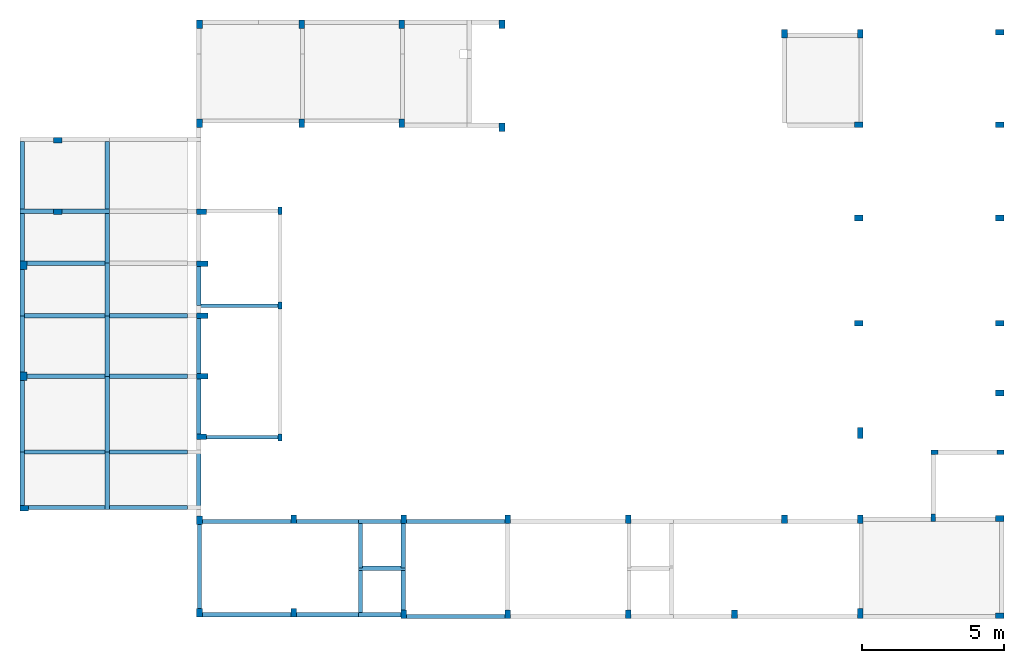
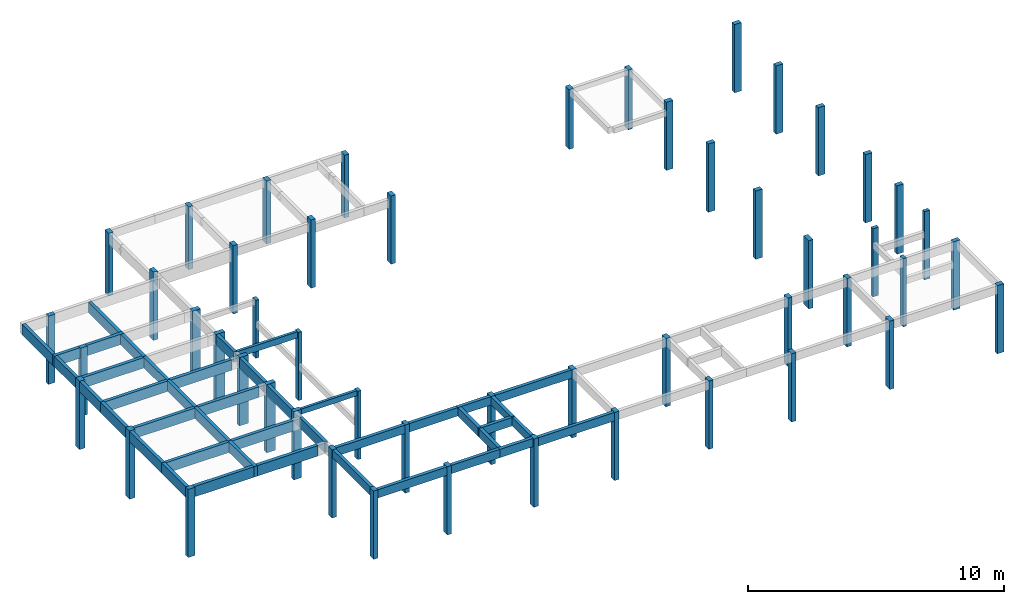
# One storey, part 1 of 6: 51 columns, 43 beams.
"""IFC4 building model written with IfcOpenShell, lengths in centimetres."""

from ifc_helpers import new_model, si_unit, derived_unit, frame, origin_with_axes, origin_2d_with_axis, place, context, project, spatial, rectangle, extrude, material, element, save


model = new_model("IFC4")

# Units and contexts
model_context = context("Model", 3, precision=1e-05, world=origin_with_axes(), identifier="Body")
ifc_project = project(units=[si_unit("LENGTHUNIT", "METRE", prefix="CENTI"), si_unit("VOLUMEUNIT", "CUBIC_METRE"), si_unit("AREAUNIT", "SQUARE_METRE"), si_unit("POWERUNIT", "WATT"), si_unit("LUMINOUSFLUXUNIT", "LUMEN"), si_unit("ELECTRICCURRENTUNIT", "AMPERE"), si_unit("PRESSUREUNIT", "PASCAL", prefix="KILO"), si_unit("MASSUNIT", "GRAM", prefix="KILO"), si_unit("PLANEANGLEUNIT", "RADIAN"), derived_unit("VOLUMETRICFLOWRATEUNIT", [(si_unit("LENGTHUNIT", "METRE"), 3), (si_unit("TIMEUNIT", "SECOND"), -1)])], contexts=[model_context])

# Site, building, storey
site_placement = place(None, origin_with_axes())
site = spatial("IfcSite", under=ifc_project, at=site_placement)
building_placement = place(site_placement, frame((0.0, 0.0, -295.0)))
building = spatial("IfcBuilding", under=site, at=building_placement)
placement_1 = place(building_placement, origin_with_axes())
placement_2 = place(placement_1, frame((0.0, 0.0, 101.0), z_axis=(0.0, 0.0, 1.0), x_axis=(1.0, 0.0, 0.0)))
placement_3 = place(placement_2, frame((0.0, 0.0, 204.0), z_axis=(0.0, 0.0, 1.0), x_axis=(1.0, 0.0, 0.0)))
placement_4 = place(placement_3, frame((0.0, 0.0, 292.0), z_axis=(0.0, 0.0, 1.0), x_axis=(1.0, 0.0, 0.0)))
placement_5 = place(placement_4, frame((0.0, 0.0, 302.0), z_axis=(0.0, 0.0, 1.0), x_axis=(1.0, 0.0, 0.0)))
storey_placement = place(placement_5, frame((0.0, 0.0, 326.0), z_axis=(0.0, 0.0, 1.0), x_axis=(1.0, 0.0, 0.0)))
storey = spatial("IfcBuildingStorey", under=building, at=storey_placement, Name="COB CX DAGUA", CompositionType="ELEMENT", Elevation=930.0)

# Columns
ifc_material = material(Name="Concreto")
column_1_placement = place(storey_placement, frame((4001.76, -5114.55, 0.0), z_axis=(0.0, 0.0, 1.0), x_axis=(1.0, 0.0, 0.0)))
element("IfcColumn", 1, at=column_1_placement, inside=storey, material=ifc_material, Name="P10", context=model_context, shape_type="SolidModel", body=[
    extrude(rectangle(XDim=20.0, YDim=30.0, at=origin_2d_with_axis()), frame((0.0, 0.0, 0.0), z_axis=(0.0, 0.0, 1.0), x_axis=(0.0, 1.0, 0.0)), (0.0, 0.0, -1.0), 326.0),
])
for number, where, z_axis, x_axis, name in (
    (2, (1183.9, -5434.69, 0.0), (0.0, 0.0, 1.0), (1.0, 0.0, 0.0), "P11"),
    (3, (1544.4, -5434.69, 0.0), (0.0, 0.0, 1.0), (1.0, 0.0, 0.0), "P12"),
    (4, (1895.85, -5434.69, 0.0), (0.0, 0.0, 1.0), (1.0, 0.0, 0.0), "P13"),
    (5, (2248.73, -5449.62, 0.0), (0.0, 0.0, 1.0), (1.0, 0.0, 0.0), "P14"),
):
    element("IfcColumn", number, at=place(storey_placement, frame(where, z_axis=z_axis, x_axis=x_axis)), inside=storey, material=ifc_material, Name=name, context=model_context, shape_type="SolidModel", body=[
        extrude(rectangle(XDim=20.0, YDim=30.0, at=origin_2d_with_axis()), origin_with_axes(), (0.0, 0.0, -1.0), 326.0),
    ])
for number, where, z_axis, x_axis, name in (
    (6, (3505.71, -5439.69, 0.0), (0.0, 0.0, 1.0), (1.0, 0.0, 0.0), "P18"),
    (7, (4001.74, -5439.69, 0.0), (0.0, 0.0, 1.0), (1.0, 0.0, 0.0), "P19"),
):
    element("IfcColumn", number, at=place(storey_placement, frame(where, z_axis=z_axis, x_axis=x_axis)), inside=storey, material=ifc_material, Name=name, context=model_context, shape_type="SolidModel", body=[
        extrude(rectangle(XDim=20.0, YDim=30.0, at=origin_2d_with_axis()), frame((0.0, 0.0, 0.0), z_axis=(0.0, 0.0, 1.0), x_axis=(0.0, -1.0, 0.0)), (0.0, 0.0, -1.0), 326.0),
    ])
column_2_placement = place(storey_placement, frame((1183.9, -5086.11, -26.0), z_axis=(0.0, 0.0, 1.0), x_axis=(1.0, 0.0, 0.0)))
element("IfcColumn", 8, at=column_2_placement, inside=storey, material=ifc_material, Name="P2", context=model_context, shape_type="SolidModel", body=[
    extrude(rectangle(XDim=20.0, YDim=30.0, at=origin_2d_with_axis()), origin_with_axes(), (0.0, 0.0, -1.0), 300.0),
])
for number, where, z_axis, x_axis, name in (
    (9, (683.93, -5494.16, 0.0), (0.0, 0.0, 1.0), (1.0, 0.0, 0.0), "P20"),
    (10, (683.93, -5746.84, 0.0), (0.0, 0.0, 1.0), (1.0, 0.0, 0.0), "P22"),
):
    element("IfcColumn", number, at=place(storey_placement, frame(where, z_axis=z_axis, x_axis=x_axis)), inside=storey, material=ifc_material, Name=name, context=model_context, shape_type="SolidModel", body=[
        extrude(rectangle(XDim=20.0, YDim=30.0, at=origin_2d_with_axis()), frame((0.0, 0.0, 0.0), z_axis=(0.0, 0.0, 1.0), x_axis=(0.0, 1.0, 0.0)), (0.0, 0.0, -1.0), 326.0),
    ])
column_3_placement = place(storey_placement, frame((1191.4, -5746.84, 0.0), z_axis=(0.0, 0.0, 1.0), x_axis=(1.0, 0.0, 0.0)))
element("IfcColumn", 11, at=column_3_placement, inside=storey, material=ifc_material, Name="P23", context=model_context, shape_type="SolidModel", body=[
    extrude(rectangle(XDim=20.0, YDim=35.0, at=origin_2d_with_axis()), frame((0.0, 0.0, 0.0), z_axis=(0.0, 0.0, 1.0), x_axis=(0.0, 1.0, 0.0)), (0.0, 0.0, -1.0), 326.0),
])
for number, where, z_axis, x_axis, name in (
    (12, (3505.73, -5768.55, 0.0), (0.0, 0.0, 1.0), (1.0, 0.0, 0.0), "P25"),
    (13, (4001.76, -5768.55, 0.0), (0.0, 0.0, 1.0), (1.0, 0.0, 0.0), "P26"),
):
    element("IfcColumn", number, at=place(storey_placement, frame(where, z_axis=z_axis, x_axis=x_axis)), inside=storey, material=ifc_material, Name=name, context=model_context, shape_type="SolidModel", body=[
        extrude(rectangle(XDim=20.0, YDim=30.0, at=origin_2d_with_axis()), frame((0.0, 0.0, 0.0), z_axis=(0.0, 0.0, 1.0), x_axis=(0.0, -1.0, 0.0)), (0.0, 0.0, -1.0), 326.0),
    ])
column_4_placement = place(storey_placement, frame((564.23, -5934.85, 0.0), z_axis=(0.0, 0.0, 1.0), x_axis=(1.0, 0.0, 0.0)))
element("IfcColumn", 14, at=column_4_placement, inside=storey, material=ifc_material, Name="P27", context=model_context, shape_type="SolidModel", body=[
    extrude(rectangle(XDim=25.0, YDim=30.0, at=origin_2d_with_axis()), origin_with_axes(), (0.0, 0.0, -1.0), 326.0),
])
column_5_placement = place(storey_placement, frame((1193.9, -5929.85, 0.0), z_axis=(0.0, 0.0, 1.0), x_axis=(1.0, 0.0, 0.0)))
element("IfcColumn", 15, at=column_5_placement, inside=storey, material=ifc_material, Name="P28", context=model_context, shape_type="SolidModel", body=[
    extrude(rectangle(XDim=20.0, YDim=40.0, at=origin_2d_with_axis()), frame((0.0, 0.0, 0.0), z_axis=(0.0, 0.0, 1.0), x_axis=(0.0, -1.0, 0.0)), (0.0, 0.0, -1.0), 326.0),
])
column_6_placement = place(storey_placement, frame((1193.9, -6112.7, 0.0), z_axis=(0.0, 0.0, 1.0), x_axis=(1.0, 0.0, 0.0)))
element("IfcColumn", 16, at=column_6_placement, inside=storey, material=ifc_material, Name="P29", context=model_context, shape_type="SolidModel", body=[
    extrude(rectangle(XDim=20.0, YDim=40.0, at=origin_2d_with_axis()), frame((0.0, 0.0, 0.0), z_axis=(0.0, 0.0, 1.0), x_axis=(0.0, 1.0, 0.0)), (0.0, 0.0, -1.0), 326.0),
])
column_7_placement = place(storey_placement, frame((1544.4, -5086.11, -26.0), z_axis=(0.0, 0.0, 1.0), x_axis=(1.0, 0.0, 0.0)))
element("IfcColumn", 17, at=column_7_placement, inside=storey, material=ifc_material, Name="P3", context=model_context, shape_type="SolidModel", body=[
    extrude(rectangle(XDim=20.0, YDim=30.0, at=origin_2d_with_axis()), origin_with_axes(), (0.0, 0.0, -1.0), 300.0),
])
for number, where, z_axis, x_axis, name in (
    (18, (3505.73, -6138.55, 0.0), (0.0, 0.0, 1.0), (1.0, 0.0, 0.0), "P30"),
    (19, (4001.76, -6138.55, 0.0), (0.0, 0.0, 1.0), (1.0, 0.0, 0.0), "P31"),
):
    element("IfcColumn", number, at=place(storey_placement, frame(where, z_axis=z_axis, x_axis=x_axis)), inside=storey, material=ifc_material, Name=name, context=model_context, shape_type="SolidModel", body=[
        extrude(rectangle(XDim=20.0, YDim=30.0, at=origin_2d_with_axis()), frame((0.0, 0.0, 0.0), z_axis=(0.0, 0.0, 1.0), x_axis=(0.0, -1.0, 0.0)), (0.0, 0.0, -1.0), 326.0),
    ])
column_8_placement = place(storey_placement, frame((564.23, -6325.62, 0.0), z_axis=(0.0, 0.0, 1.0), x_axis=(1.0, 0.0, 0.0)))
element("IfcColumn", 20, at=column_8_placement, inside=storey, material=ifc_material, Name="P32", context=model_context, shape_type="SolidModel", body=[
    extrude(rectangle(XDim=25.0, YDim=30.0, at=origin_2d_with_axis()), origin_with_axes(), (0.0, 0.0, -1.0), 326.0),
])
column_9_placement = place(storey_placement, frame((1193.9, -6325.62, 0.0), z_axis=(0.0, 0.0, 1.0), x_axis=(1.0, 0.0, 0.0)))
element("IfcColumn", 21, at=column_9_placement, inside=storey, material=ifc_material, Name="P33", context=model_context, shape_type="SolidModel", body=[
    extrude(rectangle(XDim=20.0, YDim=40.0, at=origin_2d_with_axis()), frame((0.0, 0.0, 0.0), z_axis=(0.0, 0.0, 1.0), x_axis=(0.0, 1.0, 0.0)), (0.0, 0.0, -1.0), 326.0),
])
column_10_placement = place(storey_placement, frame((4001.76, -6384.65, 0.0), z_axis=(0.0, 0.0, 1.0), x_axis=(1.0, 0.0, 0.0)))
element("IfcColumn", 22, at=column_10_placement, inside=storey, material=ifc_material, Name="P34", context=model_context, shape_type="SolidModel", body=[
    extrude(rectangle(XDim=20.0, YDim=30.0, at=origin_2d_with_axis()), frame((0.0, 0.0, 0.0), z_axis=(0.0, 0.0, 1.0), x_axis=(0.0, -1.0, 0.0)), (0.0, 0.0, -1.0), 326.0),
])
column_11_placement = place(storey_placement, frame((1191.4, -6538.55, 0.0), z_axis=(0.0, 0.0, 1.0), x_axis=(1.0, 0.0, 0.0)))
element("IfcColumn", 23, at=column_11_placement, inside=storey, material=ifc_material, Name="P35", context=model_context, shape_type="SolidModel", body=[
    extrude(rectangle(XDim=20.0, YDim=35.0, at=origin_2d_with_axis()), frame((0.0, 0.0, 0.0), z_axis=(0.0, 0.0, 1.0), x_axis=(0.0, 1.0, 0.0)), (0.0, 0.0, -1.0), 326.0),
])
column_12_placement = place(storey_placement, frame((3510.73, -6525.55, 0.0), z_axis=(0.0, 0.0, 1.0), x_axis=(1.0, 0.0, 0.0)))
element("IfcColumn", 24, at=column_12_placement, inside=storey, material=ifc_material, Name="P37", context=model_context, shape_type="SolidModel", body=[
    extrude(rectangle(XDim=20.0, YDim=40.0, at=origin_2d_with_axis()), origin_with_axes(), (0.0, 0.0, -1.0), 326.0),
])
for number, where, z_axis, x_axis, name in (
    (25, (3772.23, -6592.81, 0.0), (0.0, 0.0, 1.0), (1.0, 0.0, 0.0), "P38"),
    (26, (4004.23, -6592.81, 0.0), (0.0, 0.0, 1.0), (1.0, 0.0, 0.0), "P39"),
):
    element("IfcColumn", number, at=place(storey_placement, frame(where, z_axis=z_axis, x_axis=x_axis)), inside=storey, material=ifc_material, Name=name, context=model_context, shape_type="SolidModel", body=[
        extrude(rectangle(XDim=15.0, YDim=25.0, at=origin_2d_with_axis()), frame((0.0, 0.0, 0.0), z_axis=(0.0, 0.0, 1.0), x_axis=(0.0, 1.0, 0.0)), (0.0, 0.0, -1.0), 326.0),
    ])
column_13_placement = place(storey_placement, frame((1895.85, -5086.11, -26.0), z_axis=(0.0, 0.0, 1.0), x_axis=(1.0, 0.0, 0.0)))
element("IfcColumn", 27, at=column_13_placement, inside=storey, material=ifc_material, Name="P4", context=model_context, shape_type="SolidModel", body=[
    extrude(rectangle(XDim=20.0, YDim=30.0, at=origin_2d_with_axis()), origin_with_axes(), (0.0, 0.0, -1.0), 300.0),
])
column_14_placement = place(storey_placement, frame((566.73, -6790.04, 0.0), z_axis=(0.0, 0.0, 1.0), x_axis=(1.0, 0.0, 0.0)))
element("IfcColumn", 28, at=column_14_placement, inside=storey, material=ifc_material, Name="P40", context=model_context, shape_type="SolidModel", body=[
    extrude(rectangle(XDim=20.0, YDim=30.0, at=origin_2d_with_axis()), frame((0.0, 0.0, 0.0), z_axis=(0.0, 0.0, 1.0), x_axis=(0.0, 1.0, 0.0)), (0.0, 0.0, -1.0), 326.0),
])
for number, where, z_axis, x_axis, name in (
    (29, (1183.9, -6833.35, 0.0), (0.0, 0.0, 1.0), (1.0, 0.0, 0.0), "P41"),
    (30, (1515.96, -6829.2, 0.0), (0.0, 0.0, 1.0), (1.0, 0.0, 0.0), "P42"),
    (31, (1903.6, -6829.2, 0.0), (0.0, 0.0, 1.0), (1.0, 0.0, 0.0), "P43"),
    (32, (2268.73, -6829.2, 0.0), (0.0, 0.0, 1.0), (1.0, 0.0, 0.0), "P44"),
    (33, (2693.6, -6829.2, 0.0), (0.0, 0.0, 1.0), (1.0, 0.0, 0.0), "P45"),
    (34, (3243.73, -6829.2, 0.0), (0.0, 0.0, 1.0), (1.0, 0.0, 0.0), "P46"),
    (35, (3510.73, -6829.2, 0.0), (0.0, 0.0, 1.0), (1.0, 0.0, 0.0), "P47"),
):
    element("IfcColumn", number, at=place(storey_placement, frame(where, z_axis=z_axis, x_axis=x_axis)), inside=storey, material=ifc_material, Name=name, context=model_context, shape_type="SolidModel", body=[
        extrude(rectangle(XDim=20.0, YDim=30.0, at=origin_2d_with_axis()), origin_with_axes(), (0.0, 0.0, -1.0), 326.0),
    ])
column_15_placement = place(storey_placement, frame((3767.23, -6823.79, 0.0), z_axis=(0.0, 0.0, 1.0), x_axis=(1.0, 0.0, 0.0)))
element("IfcColumn", 36, at=column_15_placement, inside=storey, material=ifc_material, Name="P48", context=model_context, shape_type="SolidModel", body=[
    extrude(rectangle(XDim=15.0, YDim=25.0, at=origin_2d_with_axis()), origin_with_axes(), (0.0, 0.0, -1.0), 326.0),
])
column_16_placement = place(storey_placement, frame((4001.75, -6826.29, 0.0), z_axis=(0.0, 0.0, 1.0), x_axis=(1.0, 0.0, 0.0)))
element("IfcColumn", 37, at=column_16_placement, inside=storey, material=ifc_material, Name="P49", context=model_context, shape_type="SolidModel", body=[
    extrude(rectangle(XDim=20.0, YDim=30.0, at=origin_2d_with_axis()), frame((0.0, 0.0, 0.0), z_axis=(0.0, 0.0, 1.0), x_axis=(0.0, 1.0, 0.0)), (0.0, 0.0, -1.0), 326.0),
])
column_17_placement = place(storey_placement, frame((2248.73, -5086.25, -26.0), z_axis=(0.0, 0.0, 1.0), x_axis=(1.0, 0.0, 0.0)))
element("IfcColumn", 38, at=column_17_placement, inside=storey, material=ifc_material, Name="P5", context=model_context, shape_type="SolidModel", body=[
    extrude(rectangle(XDim=20.0, YDim=30.0, at=origin_2d_with_axis()), origin_with_axes(), (0.0, 0.0, -1.0), 300.0),
])
column_18_placement = place(storey_placement, frame((1183.9, -7157.93, 0.0), z_axis=(0.0, 0.0, 1.0), x_axis=(1.0, 0.0, 0.0)))
element("IfcColumn", 39, at=column_18_placement, inside=storey, material=ifc_material, Name="P52", context=model_context, shape_type="SolidModel", body=[
    extrude(rectangle(XDim=20.0, YDim=30.0, at=origin_2d_with_axis()), frame((0.0, 0.0, 0.0), z_axis=(0.0, 0.0, 1.0), x_axis=(-1.0, 0.0, 0.0)), (0.0, 0.0, -1.0), 326.0),
])
for number, where, z_axis, x_axis, name in (
    (40, (1515.96, -7157.93, 0.0), (0.0, 0.0, 1.0), (1.0, 0.0, 0.0), "P53"),
    (41, (1903.6, -7164.31, 0.0), (0.0, 0.0, 1.0), (1.0, 0.0, 0.0), "P54"),
    (42, (2268.73, -7164.31, 0.0), (0.0, 0.0, 1.0), (1.0, 0.0, 0.0), "P55"),
    (43, (2693.6, -7164.31, 0.0), (0.0, 0.0, 1.0), (1.0, 0.0, 0.0), "P56"),
    (44, (3067.54, -7164.31, 0.0), (0.0, 0.0, 1.0), (1.0, 0.0, 0.0), "P57"),
):
    element("IfcColumn", number, at=place(storey_placement, frame(where, z_axis=z_axis, x_axis=x_axis)), inside=storey, material=ifc_material, Name=name, context=model_context, shape_type="SolidModel", body=[
        extrude(rectangle(XDim=20.0, YDim=30.0, at=origin_2d_with_axis()), origin_with_axes(), (0.0, 0.0, -1.0), 326.0),
    ])
column_19_placement = place(storey_placement, frame((3510.73, -7161.81, 0.0), z_axis=(0.0, 0.0, 1.0), x_axis=(1.0, 0.0, 0.0)))
element("IfcColumn", 45, at=column_19_placement, inside=storey, material=ifc_material, Name="P58", context=model_context, shape_type="SolidModel", body=[
    extrude(rectangle(XDim=20.0, YDim=35.0, at=origin_2d_with_axis()), frame((0.0, 0.0, 0.0), z_axis=(0.0, 0.0, 1.0), x_axis=(-1.0, 0.0, 0.0)), (0.0, 0.0, -1.0), 326.0),
])
column_20_placement = place(storey_placement, frame((4001.76, -7169.31, 0.0), z_axis=(0.0, 0.0, 1.0), x_axis=(1.0, 0.0, 0.0)))
element("IfcColumn", 46, at=column_20_placement, inside=storey, material=ifc_material, Name="P59", context=model_context, shape_type="SolidModel", body=[
    extrude(rectangle(XDim=20.0, YDim=30.0, at=origin_2d_with_axis()), frame((0.0, 0.0, 0.0), z_axis=(0.0, 0.0, 1.0), x_axis=(0.0, -1.0, 0.0)), (0.0, 0.0, -1.0), 326.0),
])
column_21_placement = place(storey_placement, frame((1467.4, -5742.84, -50.0), z_axis=(0.0, 0.0, 1.0), x_axis=(1.0, 0.0, 0.0)))
element("IfcColumn", 47, at=column_21_placement, inside=storey, material=ifc_material, Name="P60", context=model_context, shape_type="SolidModel", body=[
    extrude(rectangle(XDim=15.0, YDim=25.0, at=origin_2d_with_axis()), origin_with_axes(), (0.0, 0.0, -1.0), 276.0),
])
for number, where, z_axis, x_axis, name in (
    (48, (1467.4, -6076.7, 0.0), (0.0, 0.0, 1.0), (1.0, 0.0, 0.0), "P61"),
    (49, (1467.4, -6541.05, 0.0), (0.0, 0.0, 1.0), (1.0, 0.0, 0.0), "P62"),
):
    element("IfcColumn", number, at=place(storey_placement, frame(where, z_axis=z_axis, x_axis=x_axis)), inside=storey, material=ifc_material, Name=name, context=model_context, shape_type="SolidModel", body=[
        extrude(rectangle(XDim=15.0, YDim=25.0, at=origin_2d_with_axis()), origin_with_axes(), (0.0, 0.0, -1.0), 326.0),
    ])
column_22_placement = place(storey_placement, frame((3243.73, -5119.55, -41.0), z_axis=(0.0, 0.0, 1.0), x_axis=(1.0, 0.0, 0.0)))
element("IfcColumn", 50, at=column_22_placement, inside=storey, material=ifc_material, Name="P8", context=model_context, shape_type="SolidModel", body=[
    extrude(rectangle(XDim=20.0, YDim=30.0, at=origin_2d_with_axis()), origin_with_axes(), (0.0, 0.0, -1.0), 285.0),
])
column_23_placement = place(storey_placement, frame((3510.73, -5119.55, -41.0), z_axis=(0.0, 0.0, 1.0), x_axis=(1.0, 0.0, 0.0)))
element("IfcColumn", 51, at=column_23_placement, inside=storey, material=ifc_material, Name="P9", context=model_context, shape_type="SolidModel", body=[
    extrude(rectangle(XDim=20.0, YDim=30.0, at=origin_2d_with_axis()), frame((0.0, 0.0, 0.0), z_axis=(0.0, 0.0, 1.0), x_axis=(-1.0, 0.0, 0.0)), (0.0, 0.0, -1.0), 285.0),
])

# Beams
beam_1_placement = place(storey_placement, frame((610.33, -5744.34, 0.0), z_axis=(0.0, 0.0, 1.0), x_axis=(1.0, 0.0, 0.0)))
element("IfcBeam", 52, at=beam_1_placement, inside=storey, material=ifc_material, Name="V308", context=model_context, shape_type="SolidModel", body=[
    extrude(rectangle(XDim=15.0, YDim=50.0, at=origin_2d_with_axis()), frame((-58.6, 0.0, -25.0), z_axis=(1.0, 0.0, 0.0), x_axis=(0.0, -1.0, 0.0)), (0.0, 0.0, 1.0), 117.2),
])
beam_2_placement = place(storey_placement, frame((782.665, -5744.34, 0.0), z_axis=(0.0, 0.0, 1.0), x_axis=(1.0, 0.0, 0.0)))
element("IfcBeam", 53, at=beam_2_placement, inside=storey, material=ifc_material, Name="V308", context=model_context, shape_type="SolidModel", body=[
    extrude(rectangle(XDim=15.0, YDim=50.0, at=origin_2d_with_axis()), frame((-83.735, 0.0, -25.0), z_axis=(1.0, 0.0, 0.0), x_axis=(0.0, -1.0, 0.0)), (0.0, 0.0, 1.0), 167.47),
])
beam_3_placement = place(storey_placement, frame((717.815, -5927.35, 0.0), z_axis=(0.0, 0.0, 1.0), x_axis=(1.0, 0.0, 0.0)))
element("IfcBeam", 54, at=beam_3_placement, inside=storey, material=ifc_material, Name="V310", context=model_context, shape_type="SolidModel", body=[
    extrude(rectangle(XDim=15.0, YDim=50.0, at=origin_2d_with_axis()), frame((-141.085, 0.0, -25.0), z_axis=(1.0, 0.0, 0.0), x_axis=(0.0, -1.0, 0.0)), (0.0, 0.0, 1.0), 282.17),
])
beam_4_placement = place(storey_placement, frame((999.9, -6112.7, 0.0), z_axis=(0.0, 0.0, 1.0), x_axis=(1.0, 0.0, 0.0)))
element("IfcBeam", 55, at=beam_4_placement, inside=storey, material=ifc_material, Name="V311", context=model_context, shape_type="SolidModel", body=[
    extrude(rectangle(XDim=15.0, YDim=50.0, at=origin_2d_with_axis()), frame((-141.0, 0.0, -25.0), z_axis=(1.0, 0.0, 0.0), x_axis=(0.0, -1.0, 0.0)), (0.0, 0.0, 1.0), 282.0),
])
beam_5_placement = place(storey_placement, frame((709.065, -6112.7, 0.0), z_axis=(0.0, 0.0, 1.0), x_axis=(1.0, 0.0, 0.0)))
element("IfcBeam", 56, at=beam_5_placement, inside=storey, material=ifc_material, Name="V311", context=model_context, shape_type="SolidModel", body=[
    extrude(rectangle(XDim=15.0, YDim=50.0, at=origin_2d_with_axis()), frame((-149.835, 0.0, -25.0), z_axis=(1.0, 0.0, 0.0), x_axis=(0.0, -1.0, 0.0)), (0.0, 0.0, 1.0), 299.67),
])
beam_6_placement = place(storey_placement, frame((1320.65, -6076.7, 0.0), z_axis=(0.0, 0.0, 1.0), x_axis=(1.0, 0.0, 0.0)))
element("IfcBeam", 57, at=beam_6_placement, inside=storey, material=ifc_material, Name="V312", context=model_context, shape_type="SolidModel", body=[
    extrude(rectangle(XDim=12.0, YDim=30.0, at=origin_2d_with_axis()), frame((-139.25, 0.0, -15.0), z_axis=(1.0, 0.0, 0.0), x_axis=(0.0, -1.0, 0.0)), (0.0, 0.0, 1.0), 278.5),
])
beam_7_placement = place(storey_placement, frame((717.815, -6325.62, 0.0), z_axis=(0.0, 0.0, 1.0), x_axis=(1.0, 0.0, 0.0)))
element("IfcBeam", 58, at=beam_7_placement, inside=storey, material=ifc_material, Name="V313", context=model_context, shape_type="SolidModel", body=[
    extrude(rectangle(XDim=15.0, YDim=50.0, at=origin_2d_with_axis()), frame((-141.085, 0.0, -25.0), z_axis=(1.0, 0.0, 0.0), x_axis=(0.0, -1.0, 0.0)), (0.0, 0.0, 1.0), 282.17),
])
beam_8_placement = place(storey_placement, frame((999.9, -6325.62, 0.0), z_axis=(0.0, 0.0, 1.0), x_axis=(1.0, 0.0, 0.0)))
element("IfcBeam", 59, at=beam_8_placement, inside=storey, material=ifc_material, Name="V313", context=model_context, shape_type="SolidModel", body=[
    extrude(rectangle(XDim=15.0, YDim=50.0, at=origin_2d_with_axis()), frame((-141.0, 0.0, -25.0), z_axis=(1.0, 0.0, 0.0), x_axis=(0.0, -1.0, 0.0)), (0.0, 0.0, 1.0), 282.0),
])
beam_9_placement = place(storey_placement, frame((1334.4, -6541.05, 0.0), z_axis=(0.0, 0.0, 1.0), x_axis=(1.0, 0.0, 0.0)))
element("IfcBeam", 60, at=beam_9_placement, inside=storey, material=ifc_material, Name="V314", context=model_context, shape_type="SolidModel", body=[
    extrude(rectangle(XDim=12.0, YDim=25.0, at=origin_2d_with_axis()), frame((-125.5, 0.0, -12.5), z_axis=(1.0, 0.0, 0.0), x_axis=(0.0, -1.0, 0.0)), (0.0, 0.0, 1.0), 251.0),
])
beam_10_placement = place(storey_placement, frame((999.9, -6592.54, 0.0), z_axis=(0.0, 0.0, 1.0), x_axis=(1.0, 0.0, 0.0)))
element("IfcBeam", 61, at=beam_10_placement, inside=storey, material=ifc_material, Name="V315", context=model_context, shape_type="SolidModel", body=[
    extrude(rectangle(XDim=15.0, YDim=50.0, at=origin_2d_with_axis()), frame((-141.0, 0.0, -25.0), z_axis=(1.0, 0.0, 0.0), x_axis=(0.0, -1.0, 0.0)), (0.0, 0.0, 1.0), 282.0),
])
beam_11_placement = place(storey_placement, frame((709.065, -6592.54, 0.0), z_axis=(0.0, 0.0, 1.0), x_axis=(1.0, 0.0, 0.0)))
element("IfcBeam", 62, at=beam_11_placement, inside=storey, material=ifc_material, Name="V315", context=model_context, shape_type="SolidModel", body=[
    extrude(rectangle(XDim=15.0, YDim=50.0, at=origin_2d_with_axis()), frame((-149.835, 0.0, -25.0), z_axis=(1.0, 0.0, 0.0), x_axis=(0.0, -1.0, 0.0)), (0.0, 0.0, 1.0), 299.67),
])
beam_12_placement = place(storey_placement, frame((720.315, -6787.54, 0.0), z_axis=(0.0, 0.0, 1.0), x_axis=(1.0, 0.0, 0.0)))
element("IfcBeam", 63, at=beam_12_placement, inside=storey, material=ifc_material, Name="V316", context=model_context, shape_type="SolidModel", body=[
    extrude(rectangle(XDim=15.0, YDim=50.0, at=origin_2d_with_axis()), frame((-138.585, 0.0, -25.0), z_axis=(1.0, 0.0, 0.0), x_axis=(0.0, -1.0, 0.0)), (0.0, 0.0, 1.0), 277.17),
])
beam_13_placement = place(storey_placement, frame((1003.65, -6787.54, 0.0), z_axis=(0.0, 0.0, 1.0), x_axis=(1.0, 0.0, 0.0)))
element("IfcBeam", 64, at=beam_13_placement, inside=storey, material=ifc_material, Name="V316", context=model_context, shape_type="SolidModel", body=[
    extrude(rectangle(XDim=15.0, YDim=50.0, at=origin_2d_with_axis()), frame((-137.25, 0.0, -25.0), z_axis=(1.0, 0.0, 0.0), x_axis=(0.0, -1.0, 0.0)), (0.0, 0.0, 1.0), 274.5),
])
beam_14_placement = place(storey_placement, frame((1638.53, -6836.7, 0.0), z_axis=(0.0, 0.0, 1.0), x_axis=(1.0, 0.0, 0.0)))
element("IfcBeam", 65, at=beam_14_placement, inside=storey, material=ifc_material, Name="V317", context=model_context, shape_type="SolidModel", body=[
    extrude(rectangle(XDim=15.0, YDim=40.0, at=origin_2d_with_axis()), frame((-112.57, 0.0, -20.0), z_axis=(1.0, 0.0, 0.0), x_axis=(0.0, -1.0, 0.0)), (0.0, 0.0, 1.0), 225.14),
])
beam_15_placement = place(storey_placement, frame((1349.93, -6836.7, 0.0), z_axis=(0.0, 0.0, 1.0), x_axis=(1.0, 0.0, 0.0)))
element("IfcBeam", 66, at=beam_15_placement, inside=storey, material=ifc_material, Name="V317", context=model_context, shape_type="SolidModel", body=[
    extrude(rectangle(XDim=15.0, YDim=40.0, at=origin_2d_with_axis()), frame((-156.03, 0.0, -20.0), z_axis=(1.0, 0.0, 0.0), x_axis=(0.0, -1.0, 0.0)), (0.0, 0.0, 1.0), 312.06),
])
beam_16_placement = place(storey_placement, frame((2086.165, -6836.7, 0.0), z_axis=(0.0, 0.0, 1.0), x_axis=(1.0, 0.0, 0.0)))
element("IfcBeam", 67, at=beam_16_placement, inside=storey, material=ifc_material, Name="V317", context=model_context, shape_type="SolidModel", body=[
    extrude(rectangle(XDim=15.0, YDim=40.0, at=origin_2d_with_axis()), frame((-172.565, 0.0, -20.0), z_axis=(1.0, 0.0, 0.0), x_axis=(0.0, -1.0, 0.0)), (0.0, 0.0, 1.0), 345.13),
])
beam_17_placement = place(storey_placement, frame((1818.6, -6836.7, 0.0), z_axis=(0.0, 0.0, 1.0), x_axis=(1.0, 0.0, 0.0)))
element("IfcBeam", 68, at=beam_17_placement, inside=storey, material=ifc_material, Name="V317", context=model_context, shape_type="SolidModel", body=[
    extrude(rectangle(XDim=15.0, YDim=40.0, at=origin_2d_with_axis()), frame((-75.0, 0.0, -20.0), z_axis=(1.0, 0.0, 0.0), x_axis=(0.0, -1.0, 0.0)), (0.0, 0.0, 1.0), 150.0),
])
beam_18_placement = place(storey_placement, frame((1826.1, -7001.64, 0.0), z_axis=(0.0, 0.0, 1.0), x_axis=(1.0, 0.0, 0.0)))
element("IfcBeam", 69, at=beam_18_placement, inside=storey, material=ifc_material, Name="V319", context=model_context, shape_type="SolidModel", body=[
    extrude(rectangle(XDim=15.0, YDim=40.0, at=origin_2d_with_axis()), frame((-82.5, 0.0, -20.0), z_axis=(1.0, 0.0, 0.0), x_axis=(0.0, -1.0, 0.0)), (0.0, 0.0, 1.0), 165.0),
])
beam_19_placement = place(storey_placement, frame((1638.53, -7165.43, 0.0), z_axis=(0.0, 0.0, 1.0), x_axis=(1.0, 0.0, 0.0)))
element("IfcBeam", 70, at=beam_19_placement, inside=storey, material=ifc_material, Name="V321", context=model_context, shape_type="SolidModel", body=[
    extrude(rectangle(XDim=15.0, YDim=40.0, at=origin_2d_with_axis()), frame((-112.57, 0.0, -20.0), z_axis=(1.0, 0.0, 0.0), x_axis=(0.0, -1.0, 0.0)), (0.0, 0.0, 1.0), 225.14),
])
beam_20_placement = place(storey_placement, frame((1818.6, -7165.43, 0.0), z_axis=(0.0, 0.0, 1.0), x_axis=(1.0, 0.0, 0.0)))
element("IfcBeam", 71, at=beam_20_placement, inside=storey, material=ifc_material, Name="V321", context=model_context, shape_type="SolidModel", body=[
    extrude(rectangle(XDim=15.0, YDim=40.0, at=origin_2d_with_axis()), frame((-75.0, 0.0, -20.0), z_axis=(1.0, 0.0, 0.0), x_axis=(0.0, -1.0, 0.0)), (0.0, 0.0, 1.0), 150.0),
])
beam_21_placement = place(storey_placement, frame((1349.93, -7165.43, 0.0), z_axis=(0.0, 0.0, 1.0), x_axis=(1.0, 0.0, 0.0)))
element("IfcBeam", 72, at=beam_21_placement, inside=storey, material=ifc_material, Name="V321", context=model_context, shape_type="SolidModel", body=[
    extrude(rectangle(XDim=15.0, YDim=40.0, at=origin_2d_with_axis()), frame((-156.03, 0.0, -20.0), z_axis=(1.0, 0.0, 0.0), x_axis=(0.0, -1.0, 0.0)), (0.0, 0.0, 1.0), 312.06),
])
beam_22_placement = place(storey_placement, frame((2086.165, -7171.81, 0.0), z_axis=(0.0, 0.0, 1.0), x_axis=(1.0, 0.0, 0.0)))
element("IfcBeam", 73, at=beam_22_placement, inside=storey, material=ifc_material, Name="V322", context=model_context, shape_type="SolidModel", body=[
    extrude(rectangle(XDim=15.0, YDim=40.0, at=origin_2d_with_axis()), frame((-172.565, 0.0, -20.0), z_axis=(1.0, 0.0, 0.0), x_axis=(0.0, -1.0, 0.0)), (0.0, 0.0, 1.0), 345.13),
])
beam_23_placement = place(storey_placement, frame((559.23, -6466.58, 0.0), z_axis=(0.0, 0.0, 1.0), x_axis=(1.0, 0.0, 0.0)))
element("IfcBeam", 74, at=beam_23_placement, inside=storey, material=ifc_material, Name="V323", context=model_context, shape_type="SolidModel", body=[
    extrude(rectangle(XDim=15.0, YDim=50.0, at=origin_2d_with_axis()), frame((0.0, -125.96, -25.0), z_axis=(0.0, 1.0, 0.0), x_axis=(1.0, 0.0, 0.0)), (0.0, 0.0, 1.0), 251.92),
])
beam_24_placement = place(storey_placement, frame((559.23, -6211.66, 0.0), z_axis=(0.0, 0.0, 1.0), x_axis=(1.0, 0.0, 0.0)))
element("IfcBeam", 75, at=beam_24_placement, inside=storey, material=ifc_material, Name="V323", context=model_context, shape_type="SolidModel", body=[
    extrude(rectangle(XDim=15.0, YDim=50.0, at=origin_2d_with_axis()), frame((0.0, -98.96, -25.0), z_axis=(0.0, 1.0, 0.0), x_axis=(1.0, 0.0, 0.0)), (0.0, 0.0, 1.0), 197.92),
])
beam_25_placement = place(storey_placement, frame((559.23, -6031.275, 0.0), z_axis=(0.0, 0.0, 1.0), x_axis=(1.0, 0.0, 0.0)))
element("IfcBeam", 76, at=beam_25_placement, inside=storey, material=ifc_material, Name="V323", context=model_context, shape_type="SolidModel", body=[
    extrude(rectangle(XDim=15.0, YDim=50.0, at=origin_2d_with_axis()), frame((0.0, -81.425, -25.0), z_axis=(0.0, 1.0, 0.0), x_axis=(1.0, 0.0, 0.0)), (0.0, 0.0, 1.0), 162.85),
])
beam_26_placement = place(storey_placement, frame((559.23, -5835.845, 0.0), z_axis=(0.0, 0.0, 1.0), x_axis=(1.0, 0.0, 0.0)))
element("IfcBeam", 77, at=beam_26_placement, inside=storey, material=ifc_material, Name="V323", context=model_context, shape_type="SolidModel", body=[
    extrude(rectangle(XDim=15.0, YDim=50.0, at=origin_2d_with_axis()), frame((0.0, -84.005, -25.0), z_axis=(0.0, 1.0, 0.0), x_axis=(1.0, 0.0, 0.0)), (0.0, 0.0, 1.0), 168.01),
])
beam_27_placement = place(storey_placement, frame((559.23, -5621.75, 0.0), z_axis=(0.0, 0.0, 1.0), x_axis=(1.0, 0.0, 0.0)))
element("IfcBeam", 78, at=beam_27_placement, inside=storey, material=ifc_material, Name="V323", context=model_context, shape_type="SolidModel", body=[
    extrude(rectangle(XDim=15.0, YDim=50.0, at=origin_2d_with_axis()), frame((0.0, -122.59, -25.0), z_axis=(0.0, 1.0, 0.0), x_axis=(1.0, 0.0, 0.0)), (0.0, 0.0, 1.0), 245.18),
])
beam_28_placement = place(storey_placement, frame((559.23, -6686.29, 0.0), z_axis=(0.0, 0.0, 1.0), x_axis=(1.0, 0.0, 0.0)))
element("IfcBeam", 79, at=beam_28_placement, inside=storey, material=ifc_material, Name="V323", context=model_context, shape_type="SolidModel", body=[
    extrude(rectangle(XDim=15.0, YDim=50.0, at=origin_2d_with_axis()), frame((0.0, -93.75, -25.0), z_axis=(0.0, 1.0, 0.0), x_axis=(1.0, 0.0, 0.0)), (0.0, 0.0, 1.0), 187.5),
])
beam_29_placement = place(storey_placement, frame((858.9, -6219.16, 0.0), z_axis=(0.0, 0.0, 1.0), x_axis=(1.0, 0.0, 0.0)))
element("IfcBeam", 80, at=beam_29_placement, inside=storey, material=ifc_material, Name="V324", context=model_context, shape_type="SolidModel", body=[
    extrude(rectangle(XDim=15.0, YDim=50.0, at=origin_2d_with_axis()), frame((0.0, -106.46, -25.0), z_axis=(0.0, 1.0, 0.0), x_axis=(1.0, 0.0, 0.0)), (0.0, 0.0, 1.0), 212.92),
])
beam_30_placement = place(storey_placement, frame((858.9, -6020.025, 0.0), z_axis=(0.0, 0.0, 1.0), x_axis=(1.0, 0.0, 0.0)))
element("IfcBeam", 81, at=beam_30_placement, inside=storey, material=ifc_material, Name="V324", context=model_context, shape_type="SolidModel", body=[
    extrude(rectangle(XDim=15.0, YDim=50.0, at=origin_2d_with_axis()), frame((0.0, -92.675, -25.0), z_axis=(0.0, 1.0, 0.0), x_axis=(1.0, 0.0, 0.0)), (0.0, 0.0, 1.0), 185.35),
])
beam_31_placement = place(storey_placement, frame((858.9, -6459.08, 0.0), z_axis=(0.0, 0.0, 1.0), x_axis=(1.0, 0.0, 0.0)))
element("IfcBeam", 82, at=beam_31_placement, inside=storey, material=ifc_material, Name="V324", context=model_context, shape_type="SolidModel", body=[
    extrude(rectangle(XDim=15.0, YDim=50.0, at=origin_2d_with_axis()), frame((0.0, -133.46, -25.0), z_axis=(0.0, 1.0, 0.0), x_axis=(1.0, 0.0, 0.0)), (0.0, 0.0, 1.0), 266.92),
])
beam_32_placement = place(storey_placement, frame((858.9, -5621.75, 0.0), z_axis=(0.0, 0.0, 1.0), x_axis=(1.0, 0.0, 0.0)))
element("IfcBeam", 83, at=beam_32_placement, inside=storey, material=ifc_material, Name="V324", context=model_context, shape_type="SolidModel", body=[
    extrude(rectangle(XDim=15.0, YDim=50.0, at=origin_2d_with_axis()), frame((0.0, -122.59, -25.0), z_axis=(0.0, 1.0, 0.0), x_axis=(1.0, 0.0, 0.0)), (0.0, 0.0, 1.0), 245.18),
])
beam_33_placement = place(storey_placement, frame((858.9, -5839.595, 0.0), z_axis=(0.0, 0.0, 1.0), x_axis=(1.0, 0.0, 0.0)))
element("IfcBeam", 84, at=beam_33_placement, inside=storey, material=ifc_material, Name="V324", context=model_context, shape_type="SolidModel", body=[
    extrude(rectangle(XDim=15.0, YDim=50.0, at=origin_2d_with_axis()), frame((0.0, -87.755, -25.0), z_axis=(0.0, 1.0, 0.0), x_axis=(1.0, 0.0, 0.0)), (0.0, 0.0, 1.0), 175.51),
])
beam_34_placement = place(storey_placement, frame((858.9, -6693.79, 0.0), z_axis=(0.0, 0.0, 1.0), x_axis=(1.0, 0.0, 0.0)))
element("IfcBeam", 85, at=beam_34_placement, inside=storey, material=ifc_material, Name="V324", context=model_context, shape_type="SolidModel", body=[
    extrude(rectangle(XDim=15.0, YDim=50.0, at=origin_2d_with_axis()), frame((0.0, -101.25, -25.0), z_axis=(0.0, 1.0, 0.0), x_axis=(1.0, 0.0, 0.0)), (0.0, 0.0, 1.0), 202.5),
])
beam_35_placement = place(storey_placement, frame((1183.9, -6995.64, 0.0), z_axis=(0.0, 0.0, 1.0), x_axis=(1.0, 0.0, 0.0)))
element("IfcBeam", 86, at=beam_35_placement, inside=storey, material=ifc_material, Name="V325", context=model_context, shape_type="SolidModel", body=[
    extrude(rectangle(XDim=15.0, YDim=40.0, at=origin_2d_with_axis()), frame((0.0, -147.29, -20.0), z_axis=(0.0, 1.0, 0.0), x_axis=(1.0, 0.0, 0.0)), (0.0, 0.0, 1.0), 294.58),
])
beam_36_placement = place(storey_placement, frame((1181.4, -6690.04, 0.0), z_axis=(0.0, 0.0, 1.0), x_axis=(1.0, 0.0, 0.0)))
element("IfcBeam", 87, at=beam_36_placement, inside=storey, material=ifc_material, Name="V326", context=model_context, shape_type="SolidModel", body=[
    extrude(rectangle(XDim=15.0, YDim=50.0, at=origin_2d_with_axis()), frame((0.0, -97.5, -25.0), z_axis=(0.0, 1.0, 0.0), x_axis=(1.0, 0.0, 0.0)), (0.0, 0.0, 1.0), 195.0),
])
beam_37_placement = place(storey_placement, frame((1181.4, -6432.085, 0.0), z_axis=(0.0, 0.0, 1.0), x_axis=(1.0, 0.0, 0.0)))
element("IfcBeam", 88, at=beam_37_placement, inside=storey, material=ifc_material, Name="V327", context=model_context, shape_type="SolidModel", body=[
    extrude(rectangle(XDim=15.0, YDim=50.0, at=origin_2d_with_axis()), frame((0.0, -96.465, -25.0), z_axis=(0.0, 1.0, 0.0), x_axis=(1.0, 0.0, 0.0)), (0.0, 0.0, 1.0), 192.93),
])
beam_38_placement = place(storey_placement, frame((1181.4, -6219.16, 0.0), z_axis=(0.0, 0.0, 1.0), x_axis=(1.0, 0.0, 0.0)))
element("IfcBeam", 89, at=beam_38_placement, inside=storey, material=ifc_material, Name="V327", context=model_context, shape_type="SolidModel", body=[
    extrude(rectangle(XDim=15.0, YDim=50.0, at=origin_2d_with_axis()), frame((0.0, -96.46, -25.0), z_axis=(0.0, 1.0, 0.0), x_axis=(1.0, 0.0, 0.0)), (0.0, 0.0, 1.0), 192.92),
])
beam_39_placement = place(storey_placement, frame((1181.4, -6008.275, 0.0), z_axis=(0.0, 0.0, 1.0), x_axis=(1.0, 0.0, 0.0)))
element("IfcBeam", 90, at=beam_39_placement, inside=storey, material=ifc_material, Name="V327", context=model_context, shape_type="SolidModel", body=[
    extrude(rectangle(XDim=15.0, YDim=50.0, at=origin_2d_with_axis()), frame((0.0, -68.425, -25.0), z_axis=(0.0, 1.0, 0.0), x_axis=(1.0, 0.0, 0.0)), (0.0, 0.0, 1.0), 136.85),
])
beam_40_placement = place(storey_placement, frame((1751.1, -7083.535, 0.0), z_axis=(0.0, 0.0, 1.0), x_axis=(1.0, 0.0, 0.0)))
element("IfcBeam", 91, at=beam_40_placement, inside=storey, material=ifc_material, Name="V331", context=model_context, shape_type="SolidModel", body=[
    extrude(rectangle(XDim=15.0, YDim=40.0, at=origin_2d_with_axis()), frame((0.0, -74.395, -20.0), z_axis=(0.0, 1.0, 0.0), x_axis=(1.0, 0.0, 0.0)), (0.0, 0.0, 1.0), 148.79),
])
for number, where, z_axis, x_axis, name in (
    (92, (1751.1, -6922.92, 0.0), (0.0, 0.0, 1.0), (1.0, 0.0, 0.0), "V331"),
    (93, (1901.1, -6922.92, 0.0), (0.0, 0.0, 1.0), (1.0, 0.0, 0.0), "V332"),
):
    element("IfcBeam", number, at=place(storey_placement, frame(where, z_axis=z_axis, x_axis=x_axis)), inside=storey, material=ifc_material, Name=name, context=model_context, shape_type="SolidModel", body=[
        extrude(rectangle(XDim=15.0, YDim=40.0, at=origin_2d_with_axis()), frame((0.0, -78.72, -20.0), z_axis=(0.0, 1.0, 0.0), x_axis=(1.0, 0.0, 0.0)), (0.0, 0.0, 1.0), 157.44),
    ])
beam_41_placement = place(storey_placement, frame((1901.1, -7079.225, 0.0), z_axis=(0.0, 0.0, 1.0), x_axis=(1.0, 0.0, 0.0)))
element("IfcBeam", 94, at=beam_41_placement, inside=storey, material=ifc_material, Name="V332", context=model_context, shape_type="SolidModel", body=[
    extrude(rectangle(XDim=15.0, YDim=40.0, at=origin_2d_with_axis()), frame((0.0, -70.085, -20.0), z_axis=(0.0, 1.0, 0.0), x_axis=(1.0, 0.0, 0.0)), (0.0, 0.0, 1.0), 140.17),
])

save(model, "model.ifc")
